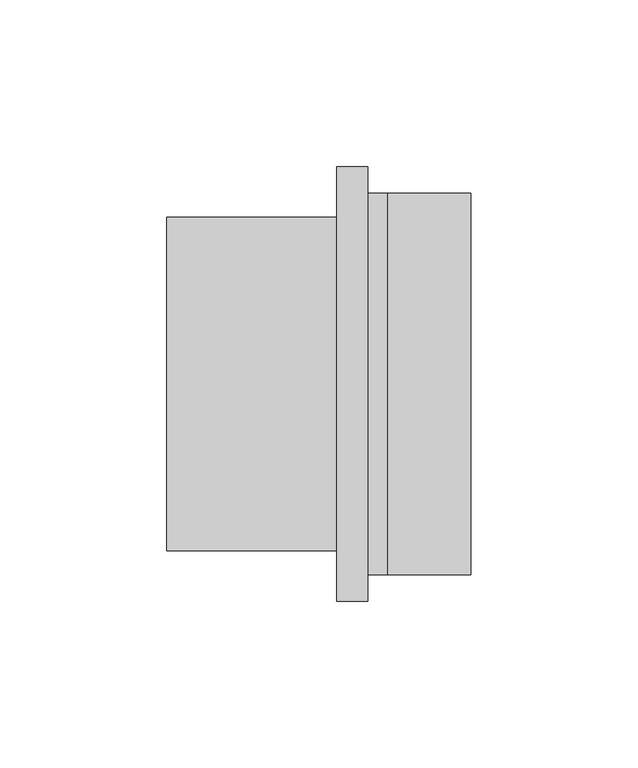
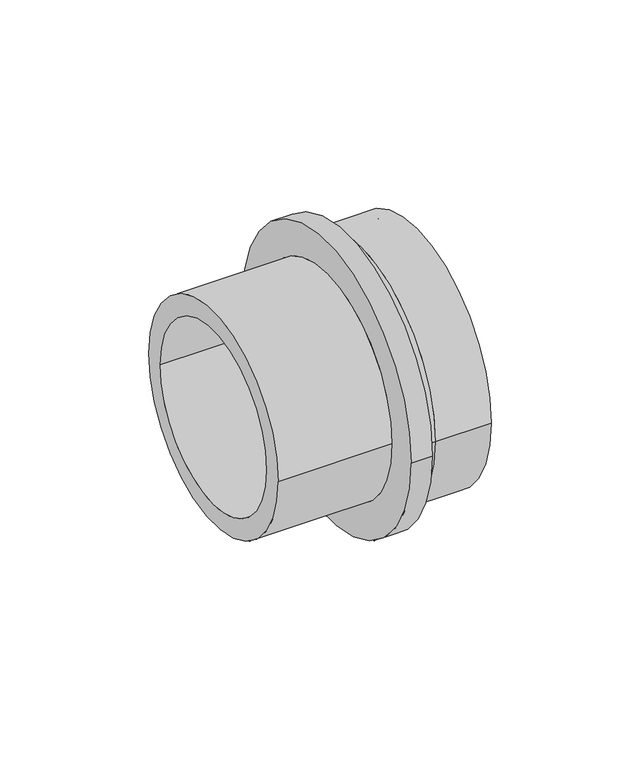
"""IFC4 building model written with IfcOpenShell, lengths in millimetres: pipe fitting geometry, Adapter with welding end : A welding RX."""

from ifc_helpers import new_model, si_unit, point, frame, origin, origin_2d, place, context, project, spatial, polyline, circle_curve, trimmed, segment, composite_curve, outline, extrude, source, transform, mapped, element, save
from ifc_brep_helpers import plane_surface, cylinder_surface, revolved_surface, advanced_brep


def pipe_fitting_202b08bc(model_context):
    return source(origin(), model_context, "Body", "SolidModel", [
        advanced_brep(
        [(0.0, 57.1, 0.0), (0.0, -57.1, 0.0), (-5.8, -57.1, 0.0), (-5.8, 57.1, 0.0), (-5.8, 52.95, 0.0), (-5.8, -52.95, 0.0), (0.0, -52.95, 0.0), (0.0, 52.95, 0.0), (-66.0, 41.0, 0.0), (-66.0, -41.0, 0.0), (-5.8, -41.0, 0.0), (-5.8, 41.0, 0.0), (-15.2, 50.0, 0.0), (-15.2, -50.0, 0.0), (-66.0, -50.0, 0.0), (-66.0, 50.0, 0.0), (-5.8, 65.0, 0.0), (-5.8, -65.0, 0.0), (-15.2, -65.0, 0.0), (-15.2, 65.0, 0.0)],
        [
            (0, 1, circle_curve(frame((0.0, 0.0, 0.0), z_axis=(-1.0, 0.0, 0.0), x_axis=(0.0, -1.0, 0.0)), 57.1)),
            (1, 2),
            (2, 3, circle_curve(frame((-5.8, 0.0, 0.0), z_axis=(1.0, 0.0, 0.0), x_axis=(0.0, -1.0, 0.0)), 57.1)),
            (3, 0),
            (4, 5, circle_curve(frame((-5.8, 0.0, 0.0), z_axis=(-1.0, 0.0, 0.0), x_axis=(0.0, -1.0, 0.0)), 52.95)),
            (5, 6),
            (6, 7, circle_curve(frame((0.0, 0.0, 0.0), z_axis=(1.0, 0.0, 0.0), x_axis=(0.0, -1.0, 0.0)), 52.95)),
            (7, 4),
            (8, 9, circle_curve(frame((-66.0, 0.0, 0.0), z_axis=(-1.0, 0.0, 0.0), x_axis=(0.0, -1.0, 0.0)), 41.0)),
            (9, 10),
            (10, 11, circle_curve(frame((-5.8, 0.0, 0.0), z_axis=(1.0, 0.0, 0.0), x_axis=(0.0, -1.0, 0.0)), 41.0)),
            (11, 8),
            (12, 13, circle_curve(frame((-15.2, 0.0, 0.0), z_axis=(-1.0, 0.0, 0.0), x_axis=(0.0, -1.0, 0.0)), 50.0)),
            (13, 14),
            (14, 15, circle_curve(frame((-66.0, 0.0, 0.0), z_axis=(1.0, 0.0, 0.0), x_axis=(0.0, -1.0, 0.0)), 50.0)),
            (15, 12),
            (16, 17, circle_curve(frame((-5.8, 0.0, 0.0), z_axis=(-1.0, 0.0, 0.0), x_axis=(0.0, -1.0, 0.0)), 65.0)),
            (17, 18),
            (18, 19, circle_curve(frame((-15.2, 0.0, 0.0), z_axis=(1.0, 0.0, 0.0), x_axis=(0.0, -1.0, 0.0)), 65.0)),
            (19, 16),
            (16, 17, circle_curve(frame((-5.8, 0.0, 0.0), z_axis=(1.0, 0.0, 0.0), x_axis=(0.0, 1.0, 0.0)), 65.0)),
            (2, 3, circle_curve(frame((-5.8, 0.0, 0.0), z_axis=(-1.0, 0.0, 0.0), x_axis=(0.0, 1.0, 0.0)), 57.1)),
            (1, 0, circle_curve(frame((0.0, 0.0, 0.0), z_axis=(-1.0, 0.0, 0.0), x_axis=(0.0, 1.0, 0.0)), 57.1)),
            (6, 7, circle_curve(frame((0.0, 0.0, 0.0), z_axis=(-1.0, 0.0, 0.0), x_axis=(0.0, 1.0, 0.0)), 52.95)),
            (5, 4, circle_curve(frame((-5.8, 0.0, 0.0), z_axis=(-1.0, 0.0, 0.0), x_axis=(0.0, 1.0, 0.0)), 52.95)),
            (10, 11, circle_curve(frame((-5.8, 0.0, 0.0), z_axis=(-1.0, 0.0, 0.0), x_axis=(0.0, 1.0, 0.0)), 41.0)),
            (9, 8, circle_curve(frame((-66.0, 0.0, 0.0), z_axis=(-1.0, 0.0, 0.0), x_axis=(0.0, 1.0, 0.0)), 41.0)),
            (14, 15, circle_curve(frame((-66.0, 0.0, 0.0), z_axis=(-1.0, 0.0, 0.0), x_axis=(0.0, 1.0, 0.0)), 50.0)),
            (13, 12, circle_curve(frame((-15.2, 0.0, 0.0), z_axis=(-1.0, 0.0, 0.0), x_axis=(0.0, 1.0, 0.0)), 50.0)),
            (18, 19, circle_curve(frame((-15.2, 0.0, 0.0), z_axis=(-1.0, 0.0, 0.0), x_axis=(0.0, 1.0, 0.0)), 65.0)),
        ],
        [
            cylinder_surface(frame((0.0, 0.0, 0.0), z_axis=(1.0, 0.0, 0.0), x_axis=(0.0, -1.0, 0.0)), 57.1),
            revolved_surface(polyline([(0.0, -52.95, 0.0), (-5.8, -52.95, 0.0)]), (0.0, 0.0, 0.0), (1.0, 0.0, 0.0)),
            revolved_surface(polyline([(-5.8, -41.0, 0.0), (-66.0, -41.0, 0.0)]), (0.0, 0.0, 0.0), (1.0, 0.0, 0.0)),
            cylinder_surface(frame((0.0, 0.0, 0.0), z_axis=(1.0, 0.0, 0.0), x_axis=(0.0, -1.0, 0.0)), 50.0),
            cylinder_surface(frame((0.0, 0.0, 0.0), z_axis=(1.0, 0.0, 0.0), x_axis=(0.0, -1.0, 0.0)), 65.0),
            plane_surface(frame((-5.8, 0.0, 0.0), z_axis=(1.0, 0.0, 0.0), x_axis=(0.0, 1.0, 0.0))),
            cylinder_surface(frame((0.0, 0.0, 0.0), z_axis=(1.0, 0.0, 0.0), x_axis=(0.0, 1.0, 0.0)), 57.1),
            plane_surface(frame((0.0, 0.0, 0.0), z_axis=(1.0, 0.0, 0.0), x_axis=(0.0, 1.0, 0.0))),
            revolved_surface(polyline([(0.0, 52.95, 0.0), (-5.8, 52.95, 0.0)]), (0.0, 0.0, 0.0), (1.0, 0.0, 0.0)),
            revolved_surface(polyline([(-5.8, 41.0, 0.0), (-66.0, 41.0, 0.0)]), (0.0, 0.0, 0.0), (1.0, 0.0, 0.0)),
            plane_surface(frame((-66.0, 0.0, 0.0), z_axis=(-1.0, 0.0, 0.0), x_axis=(0.0, 1.0, 0.0))),
            cylinder_surface(frame((0.0, 0.0, 0.0), z_axis=(1.0, 0.0, 0.0), x_axis=(0.0, 1.0, 0.0)), 50.0),
            plane_surface(frame((-15.2, 0.0, 0.0), z_axis=(-1.0, 0.0, 0.0), x_axis=(0.0, 1.0, 0.0))),
            cylinder_surface(frame((0.0, 0.0, 0.0), z_axis=(1.0, 0.0, 0.0), x_axis=(0.0, 1.0, 0.0)), 65.0),
        ],
        [
            (0, [[1, 2, 3, 4]]),
            (1, [[5, 6, 7, 8]]),
            (2, [[9, 10, 11, 12]]),
            (3, [[13, 14, 15, 16]]),
            (4, [[17, 18, 19, 20]]),
            (5, [[21, -17], [22, -3]]),
            (6, [[23, -4, -22, -2]]),
            (7, [[-23, -1], [24, -7]]),
            (8, [[25, -8, -24, -6]]),
            (5, [[-25, -5], [26, -11]]),
            (9, [[27, -12, -26, -10]]),
            (10, [[28, -15], [-27, -9]]),
            (11, [[29, -16, -28, -14]]),
            (12, [[30, -19], [-29, -13]]),
            (13, [[-21, -20, -30, -18]]),
        ],
    ),
        extrude(outline(composite_curve([segment(trimmed(circle_curve(origin_2d(), 57.1), [point((-57.1, 0.0))], [point((57.1, 0.0))], False, "CARTESIAN"), True, "CONTINUOUS"), segment(trimmed(circle_curve(origin_2d(), 57.1), [point((57.1, 0.0))], [point((-57.1, 0.0))], False, "CARTESIAN"), True, "CONTINUOUS")], self_intersect=False), holes=[composite_curve([segment(trimmed(circle_curve(origin_2d(), 52.95), [point((52.95, 0.0))], [point((-52.95, 0.0))], True, "CARTESIAN"), True, "CONTINUOUS"), segment(trimmed(circle_curve(origin_2d(), 52.95), [point((-52.95, 0.0))], [point((52.95, 0.0))], True, "CARTESIAN"), True, "CONTINUOUS")], self_intersect=False)]), frame((0.0, 0.0, 0.0), z_axis=(1.0, 0.0, 0.0), x_axis=(0.0, 1.0, 0.0)), (0.0, 0.0, 1.0), 25.0),
    ])


if __name__ == "__main__":
    model = new_model("IFC4")
    model_context = context("Model", 3, world=origin())
    ifc_project = project(units=[si_unit("LENGTHUNIT", "METRE", prefix="MILLI")], contexts=[model_context])
    site = spatial("IfcSite", under=ifc_project)
    building = spatial("IfcBuilding", under=site)
    placement = place(None, origin())
    pipe_fitting_shape = pipe_fitting_202b08bc(model_context)
    element("IfcPipeFitting", 1, ObjectType="Adapter with welding end : A welding RX", at=placement, inside=building, context=model_context, shape_type="MappedRepresentation", body=[
        mapped(pipe_fitting_shape, transform((0.0, 0.0, 0.0), x_axis=(1.0, 0.0, 0.0), y_axis=(0.0, 1.0, 0.0), z_axis=(0.0, 0.0, 1.0))),
    ])
    save(model, "model.ifc")
